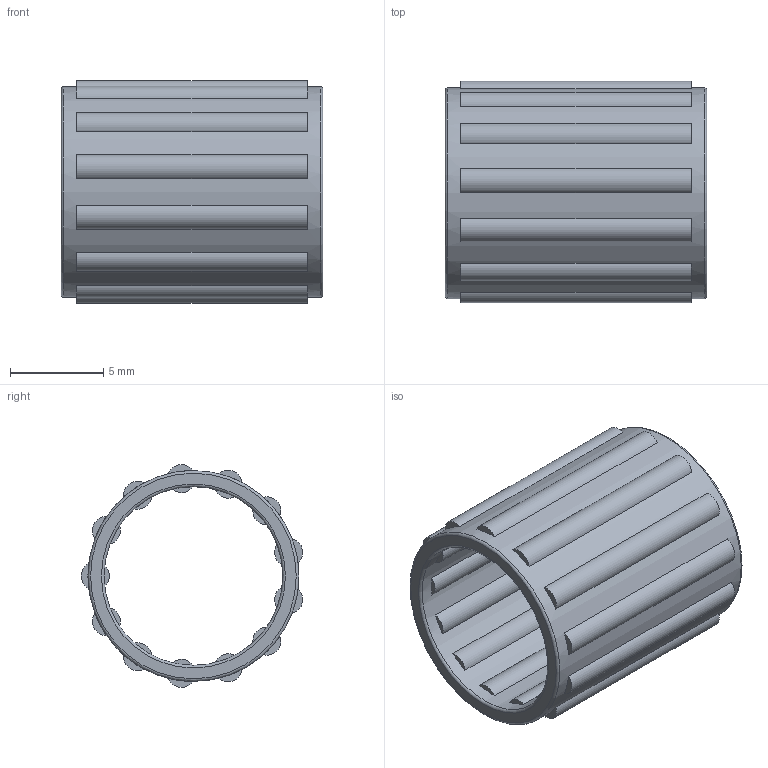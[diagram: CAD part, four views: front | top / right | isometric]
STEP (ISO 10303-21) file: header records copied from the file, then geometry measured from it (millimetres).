
FILE_DESCRIPTION(/* description */ (''),/* implementation_level */ '2;1');
FILE_NAME(/* name */ 'C:\Users\OUREHANEKD\Desktop\Ihlove loziska\KBK\KBK-01\KBK9x12x14.stp',/* time_stamp */ '2016-10-05T12:30:32+02:00',/* author */ ('OUREHANEKD'),/* organization */ (''),/* preprocessor_version */ 'ST-DEVELOPER v15.6',/* originating_system */ 'Autodesk Inventor 2015',/* authorisation */ '');
FILE_SCHEMA (('AUTOMOTIVE_DESIGN { 1 0 10303 214 3 1 1 }'));
Length unit declared in the file: millimetre
Products named in the file (1): KBK9x12x14
Bounding box: 14 x 11.84 x 11.92 mm (x, y, z)
Volume: 482.9 mm3; surface area: 1049.3 mm2
Topology: 1 solids, 1 shells, 86 faces, 176 edges, 116 vertices
Faces by surface type: plane 54, cylinder 28, torus 4
Full cylindrical faces by diameter (mm): 9.56 x1, 11.28 x1
Entity records: 2272 total; most frequent: DIRECTION 450, CARTESIAN_POINT 363, ORIENTED_EDGE 328, AXIS2_PLACEMENT_3D 199, EDGE_CURVE 164, EDGE_LOOP 120, CIRCLE 112, VERTEX_POINT 112
